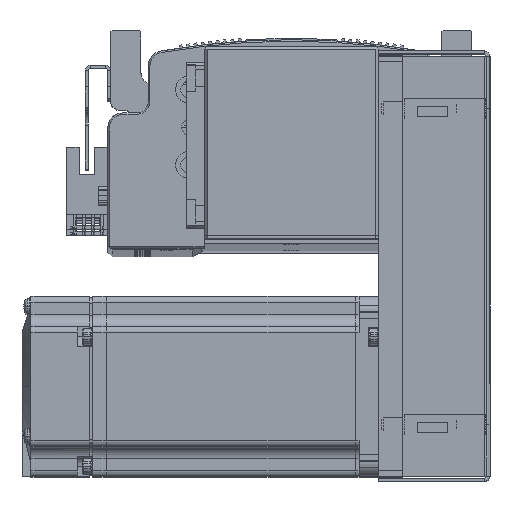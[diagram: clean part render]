
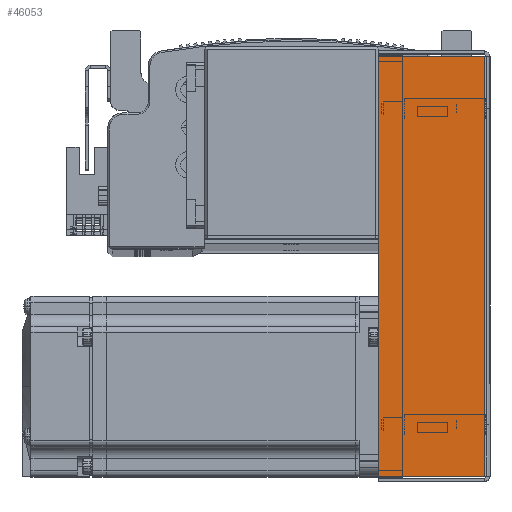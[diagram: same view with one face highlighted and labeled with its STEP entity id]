
A CAD part, top view. The second image highlights one B-rep face of the part: STEP entity #46053.
In plain terms, the highlighted planar face has unit normal (0, 0, 1).
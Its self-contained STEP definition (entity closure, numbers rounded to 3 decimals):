
#2718 = VECTOR ( 'NONE', #81553, 1000. ) ;
#2737 = LINE ( 'NONE', #81543, #2718 ) ;
#2847 = VECTOR ( 'NONE', #79474, 1000. ) ;
#2870 = LINE ( 'NONE', #79470, #2847 ) ;
#2881 = LINE ( 'NONE', #79489, #2925 ) ;
#2886 = VECTOR ( 'NONE', #79465, 1000. ) ;
#2893 = LINE ( 'NONE', #79463, #2886 ) ;
#2925 = VECTOR ( 'NONE', #79499, 1000. ) ;
#14217 = AXIS2_PLACEMENT_3D ( 'NONE', #85473, #85480, #85516 ) ;
#44208 = ORIENTED_EDGE ( 'NONE', *, *, #47584, .F. ) ;
#44220 = ORIENTED_EDGE ( 'NONE', *, *, #47576, .T. ) ;
#44234 = ORIENTED_EDGE ( 'NONE', *, *, #47478, .T. ) ;
#44304 = ORIENTED_EDGE ( 'NONE', *, *, #47569, .F. ) ;
#46053 = ADVANCED_FACE ( 'NONE', ( #87291 ), #85471, .F. ) ;
#47478 = EDGE_CURVE ( 'NONE', #54617, #54633, #2737, .T. ) ;
#47569 = EDGE_CURVE ( 'NONE', #54623, #54583, #2870, .T. ) ;
#47576 = EDGE_CURVE ( 'NONE', #54633, #54583, #2893, .T. ) ;
#47584 = EDGE_CURVE ( 'NONE', #54617, #54623, #2881, .T. ) ;
#54205 = EDGE_LOOP ( 'NONE', ( #44208, #44234, #44220, #44304 ) ) ;
#54583 = VERTEX_POINT ( 'NONE', #72236 ) ;
#54617 = VERTEX_POINT ( 'NONE', #72257 ) ;
#54623 = VERTEX_POINT ( 'NONE', #72207 ) ;
#54633 = VERTEX_POINT ( 'NONE', #72239 ) ;
#72207 = CARTESIAN_POINT ( 'NONE',  ( -69.793, 0.737, 33.5 ) ) ;
#72236 = CARTESIAN_POINT ( 'NONE',  ( -69.793, 36., 33.5 ) ) ;
#72239 = CARTESIAN_POINT ( 'NONE',  ( 69.793, 36., 33.5 ) ) ;
#72257 = CARTESIAN_POINT ( 'NONE',  ( 69.793, 0.737, 33.5 ) ) ;
#79463 = CARTESIAN_POINT ( 'NONE',  ( 0., 36., 33.5 ) ) ;
#79465 = DIRECTION ( 'NONE',  ( -1., 0., 0. ) ) ;
#79470 = CARTESIAN_POINT ( 'NONE',  ( -69.793, 0., 33.5 ) ) ;
#79474 = DIRECTION ( 'NONE',  ( 0., 1., 0. ) ) ;
#79489 = CARTESIAN_POINT ( 'NONE',  ( -71.5, 0.737, 33.5 ) ) ;
#79499 = DIRECTION ( 'NONE',  ( -1., 0., 0. ) ) ;
#81543 = CARTESIAN_POINT ( 'NONE',  ( 69.793, 0., 33.5 ) ) ;
#81553 = DIRECTION ( 'NONE',  ( 0., 1., 0. ) ) ;
#85471 = PLANE ( 'NONE',  #14217 ) ;
#85473 = CARTESIAN_POINT ( 'NONE',  ( 0., 0., 33.5 ) ) ;
#85480 = DIRECTION ( 'NONE',  ( 0., 0., -1. ) ) ;
#85516 = DIRECTION ( 'NONE',  ( -1., 0., 0. ) ) ;
#87291 = FACE_OUTER_BOUND ( 'NONE', #54205, .T. ) ;
